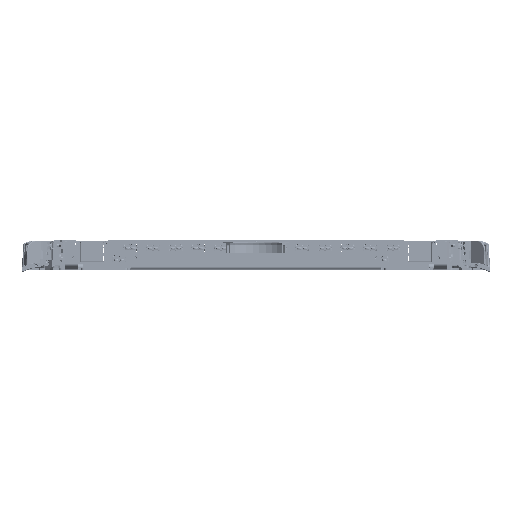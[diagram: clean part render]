
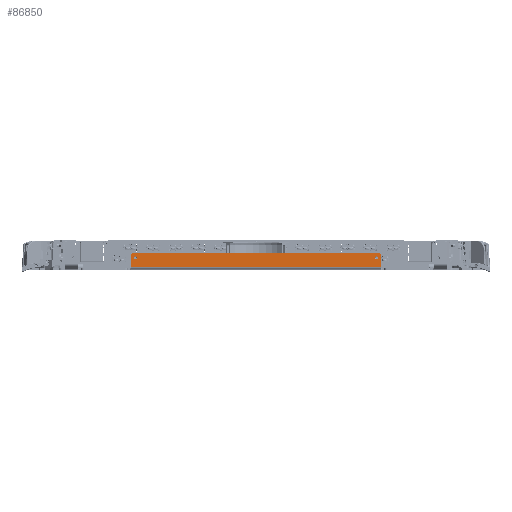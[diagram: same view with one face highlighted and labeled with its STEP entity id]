
A CAD part, left-side view. The second image highlights one B-rep face of the part: STEP entity #86850.
In plain terms, the highlighted planar face has unit normal (-1, 0, 0).
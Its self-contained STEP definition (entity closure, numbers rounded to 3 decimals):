
#86850=ADVANCED_FACE('',(#167470,#167471,#167472),#125160,.T.);
#125160=PLANE('',#856750);
#167470=FACE_BOUND('',#186893,.T.);
#167471=FACE_BOUND('',#186894,.T.);
#167472=FACE_BOUND('',#186895,.T.);
#186893=EDGE_LOOP('',(#298022));
#186894=EDGE_LOOP('',(#298023));
#186895=EDGE_LOOP('',(#298024,#298025,#298026,#298027,#298028,#298029));
#298022=ORIENTED_EDGE('',*,*,#579265,.T.);
#298023=ORIENTED_EDGE('',*,*,#579266,.T.);
#298024=ORIENTED_EDGE('',*,*,#578822,.T.);
#298025=ORIENTED_EDGE('',*,*,#579267,.T.);
#298026=ORIENTED_EDGE('',*,*,#579268,.T.);
#298027=ORIENTED_EDGE('',*,*,#579269,.T.);
#298028=ORIENTED_EDGE('',*,*,#578827,.T.);
#298029=ORIENTED_EDGE('',*,*,#579270,.T.);
#487474=VERTEX_POINT('',#1262468);
#487475=VERTEX_POINT('',#1262470);
#487478=VERTEX_POINT('',#1262478);
#487479=VERTEX_POINT('',#1262480);
#487754=VERTEX_POINT('',#1263300);
#487755=VERTEX_POINT('',#1263302);
#487756=VERTEX_POINT('',#1263304);
#487757=VERTEX_POINT('',#1263306);
#578822=EDGE_CURVE('',#487475,#487474,#685041,.T.);
#578827=EDGE_CURVE('',#487479,#487478,#685044,.T.);
#579265=EDGE_CURVE('',#487754,#487754,#817119,.T.);
#579266=EDGE_CURVE('',#487755,#487755,#817120,.T.);
#579267=EDGE_CURVE('',#487474,#487756,#817121,.T.);
#579268=EDGE_CURVE('',#487756,#487757,#685281,.T.);
#579269=EDGE_CURVE('',#487757,#487479,#817122,.T.);
#579270=EDGE_CURVE('',#487478,#487475,#685282,.T.);
#685041=LINE('',#1262469,#758089);
#685044=LINE('',#1262479,#758092);
#685281=LINE('',#1263305,#758329);
#685282=LINE('',#1263308,#758330);
#758089=VECTOR('',#979105,1.);
#758092=VECTOR('',#979114,1.);
#758329=VECTOR('',#979973,1.);
#758330=VECTOR('',#979976,1.);
#817119=CIRCLE('',#856746,1.7);
#817120=CIRCLE('',#856747,1.7);
#817121=CIRCLE('',#856748,3.);
#817122=CIRCLE('',#856749,3.);
#856746=AXIS2_PLACEMENT_3D('',#1263299,#979967,#979968);
#856747=AXIS2_PLACEMENT_3D('',#1263301,#979969,#979970);
#856748=AXIS2_PLACEMENT_3D('',#1263303,#979971,#979972);
#856749=AXIS2_PLACEMENT_3D('',#1263307,#979974,#979975);
#856750=AXIS2_PLACEMENT_3D('',#1263309,#979977,#979978);
#979105=DIRECTION('',(0.,0.,1.));
#979114=DIRECTION('',(0.,0.,-1.));
#979967=DIRECTION('',(1.,0.,0.));
#979968=DIRECTION('',(0.,0.,1.));
#979969=DIRECTION('',(1.,0.,0.));
#979970=DIRECTION('',(0.,0.,1.));
#979971=DIRECTION('',(-1.,0.,0.));
#979972=DIRECTION('',(0.,0.,1.));
#979973=DIRECTION('',(0.,1.,0.));
#979974=DIRECTION('',(-1.,0.,0.));
#979975=DIRECTION('',(0.,0.,1.));
#979976=DIRECTION('',(0.,-1.,0.));
#979977=DIRECTION('',(-1.,0.,0.));
#979978=DIRECTION('',(0.,0.,1.));
#1262468=CARTESIAN_POINT('',(-129.55,-135.,-1.));
#1262469=CARTESIAN_POINT('',(-129.55,-135.,-14.267));
#1262470=CARTESIAN_POINT('',(-129.55,-135.,-12.5));
#1262478=CARTESIAN_POINT('',(-129.55,135.,-12.5));
#1262479=CARTESIAN_POINT('',(-129.55,135.,2.));
#1262480=CARTESIAN_POINT('',(-129.55,135.,-1.));
#1263299=CARTESIAN_POINT('',(-129.55,-130.,-3.));
#1263300=CARTESIAN_POINT('',(-129.55,-130.,-1.3));
#1263301=CARTESIAN_POINT('',(-129.55,130.,-3.));
#1263302=CARTESIAN_POINT('',(-129.55,130.,-1.3));
#1263303=CARTESIAN_POINT('',(-129.55,-132.,-1.));
#1263304=CARTESIAN_POINT('',(-129.55,-132.,2.));
#1263305=CARTESIAN_POINT('',(-129.55,-135.,2.));
#1263306=CARTESIAN_POINT('',(-129.55,132.,2.));
#1263307=CARTESIAN_POINT('',(-129.55,132.,-1.));
#1263308=CARTESIAN_POINT('',(-129.55,135.,-12.5));
#1263309=CARTESIAN_POINT('',(-129.55,-290.,-15.5));
